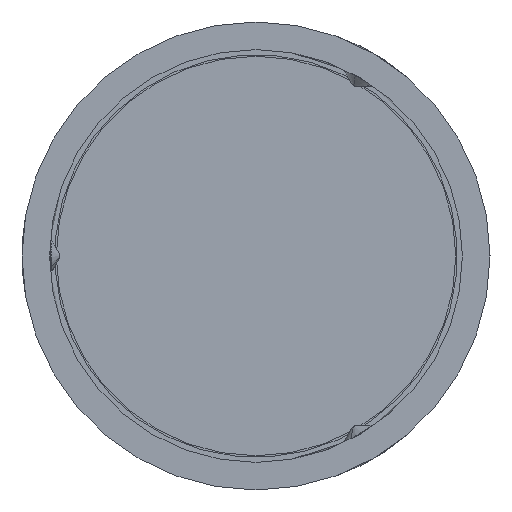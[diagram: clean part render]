
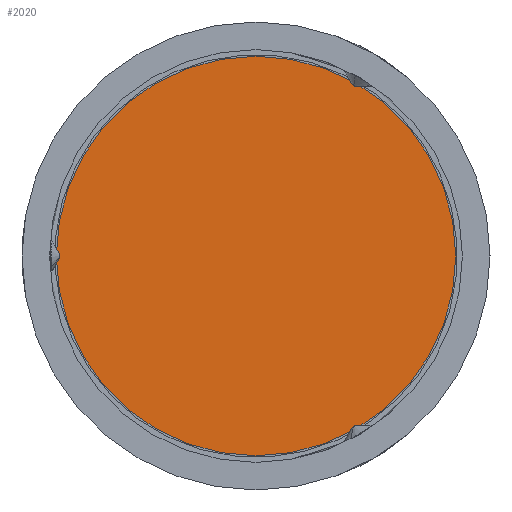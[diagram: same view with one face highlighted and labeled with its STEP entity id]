
A CAD part, left-side view. The second image highlights one B-rep face of the part: STEP entity #2020.
In plain terms, the highlighted planar face has unit normal (-1, 0, 0).
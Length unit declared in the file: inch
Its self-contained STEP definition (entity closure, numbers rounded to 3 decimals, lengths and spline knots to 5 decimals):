
#132 = AXIS2_PLACEMENT_3D ( 'NONE', #11786, #1114, #7138 ) ;
#1114 = DIRECTION ( 'NONE',  ( 1., 0., 0. ) ) ;
#2020 = ADVANCED_FACE ( 'NONE', ( #15329 ), #9502, .T. ) ;
#2192 = DIRECTION ( 'NONE',  ( 0., -0.995, -0.104 ) ) ;
#3873 = CARTESIAN_POINT ( 'NONE',  ( 0.24122, -0.8419, -0.08771 ) ) ;
#4253 = VERTEX_POINT ( 'NONE', #5171 ) ;
#5171 = CARTESIAN_POINT ( 'NONE',  ( 0.24122, 0.8419, 0.08771 ) ) ;
#6038 = EDGE_CURVE ( 'NONE', #4253, #14001, #9751, .T. ) ;
#6892 = EDGE_CURVE ( 'NONE', #14001, #4253, #11268, .T. ) ;
#7138 = DIRECTION ( 'NONE',  ( 0., 0.995, 0.104 ) ) ;
#7972 = CARTESIAN_POINT ( 'NONE',  ( 0.24122, 0., 0. ) ) ;
#8364 = EDGE_LOOP ( 'NONE', ( #13493, #9099 ) ) ;
#9099 = ORIENTED_EDGE ( 'NONE', *, *, #6892, .F. ) ;
#9434 = DIRECTION ( 'NONE',  ( 0., 0.995, 0.104 ) ) ;
#9502 = PLANE ( 'NONE',  #9993 ) ;
#9751 = CIRCLE ( 'NONE', #14720, 0.84646 ) ;
#9993 = AXIS2_PLACEMENT_3D ( 'NONE', #7972, #12700, #2192 ) ;
#10608 = DIRECTION ( 'NONE',  ( 1., 0., 0. ) ) ;
#11268 = CIRCLE ( 'NONE', #132, 0.84646 ) ;
#11786 = CARTESIAN_POINT ( 'NONE',  ( 0.24122, 0., 0. ) ) ;
#12632 = CARTESIAN_POINT ( 'NONE',  ( 0.24122, 0., 0. ) ) ;
#12700 = DIRECTION ( 'NONE',  ( -1., 0., 0. ) ) ;
#13493 = ORIENTED_EDGE ( 'NONE', *, *, #6038, .F. ) ;
#14001 = VERTEX_POINT ( 'NONE', #3873 ) ;
#14720 = AXIS2_PLACEMENT_3D ( 'NONE', #12632, #10608, #9434 ) ;
#15329 = FACE_OUTER_BOUND ( 'NONE', #8364, .T. ) ;
